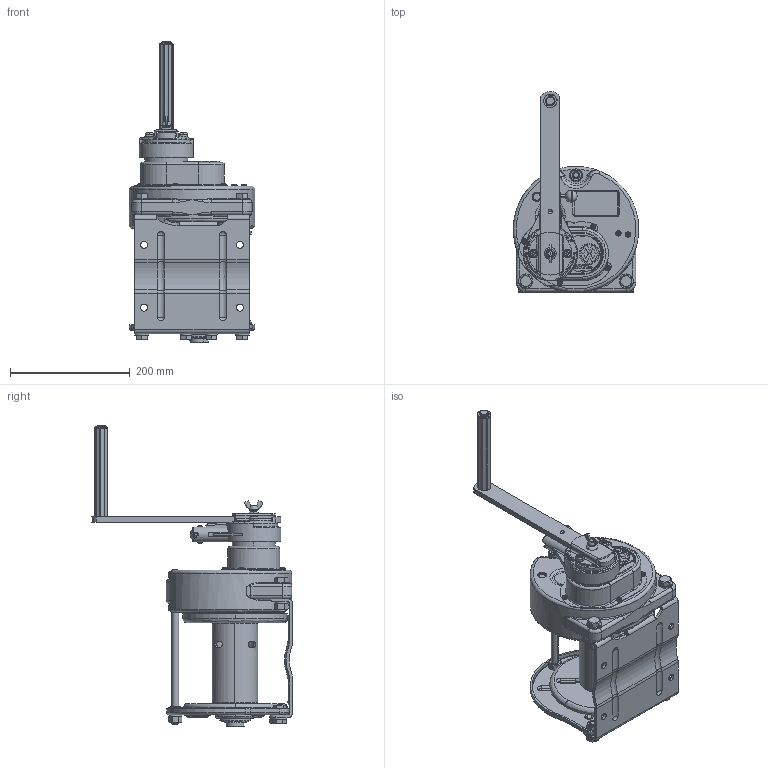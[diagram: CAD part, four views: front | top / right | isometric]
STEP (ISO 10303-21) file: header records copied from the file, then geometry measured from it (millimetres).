
FILE_DESCRIPTION( (''), '2;1');
FILE_NAME ('RST-5-SI.stp','2024-01-10T11:32:56',(''),(''),'spGate 19.8.2 (****-****-****-****)','','');
FILE_SCHEMA (('AUTOMOTIVE_DESIGN'));
Length unit declared in the file: millimetre
Products named in the file (3): Assembly; RST-5-SI-prt0; RST-5-SI-prt1
Assembly tree (2 placements, depth 2):
  Assembly
    RST-5-SI-prt0
    RST-5-SI-prt1
Bounding box: 209.96 x 335.43 x 503.8 mm (x, y, z)
Volume: 4059388.3 mm3; surface area: 673814 mm2
Topology: 2 solids, 2 shells, 2947 faces, 7565 edges, 4766 vertices
Faces by surface type: plane 1466, cylinder 908, bspline 468, sphere 105
Entity records: 161126 total; most frequent: CARTESIAN_POINT 30588, ORIENTED_EDGE 15028, DIRECTION 14670, COLOUR_RGB 10463, PRESENTATION_STYLE_ASSIGNMENT 10463, STYLED_ITEM 10463, EDGE_CURVE 7514, DRAUGHTING_PRE_DEFINED_CURVE_FONT 7514
